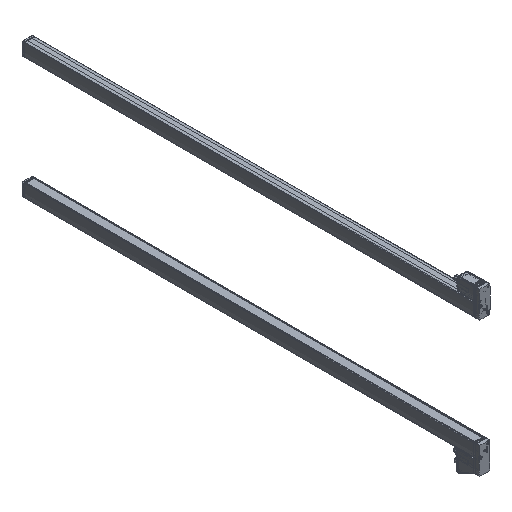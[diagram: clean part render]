
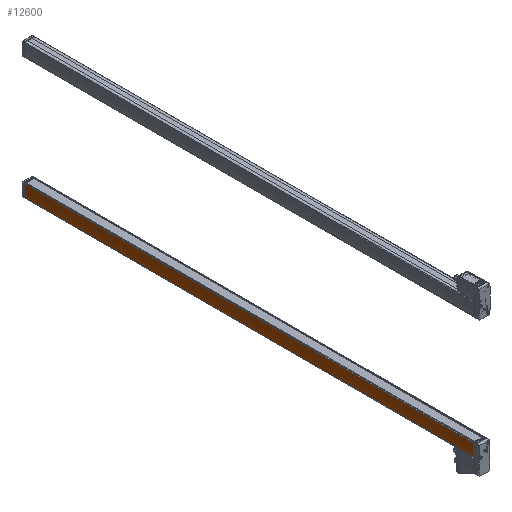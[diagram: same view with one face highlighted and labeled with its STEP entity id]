
A CAD part, isometric view. The second image highlights one B-rep face of the part: STEP entity #12600.
In plain terms, the highlighted cylindrical face has radius 250 mm (diameter 500 mm), a partial arc.
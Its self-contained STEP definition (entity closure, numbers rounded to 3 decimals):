
#11678=CYLINDRICAL_SURFACE('',#79139,250.);
#12600=ADVANCED_FACE('',(#18549),#11678,.T.);
#18549=FACE_OUTER_BOUND('',#22189,.T.);
#22189=EDGE_LOOP('',(#29285,#29286,#29287,#29288));
#26616=CIRCLE('',#79049,250.);
#26663=CIRCLE('',#79138,250.);
#29285=ORIENTED_EDGE('',*,*,#56790,.T.);
#29286=ORIENTED_EDGE('',*,*,#56914,.F.);
#29287=ORIENTED_EDGE('',*,*,#56915,.T.);
#29288=ORIENTED_EDGE('',*,*,#56912,.F.);
#49990=VERTEX_POINT('',#104094);
#49991=VERTEX_POINT('',#104096);
#50072=VERTEX_POINT('',#104340);
#50073=VERTEX_POINT('',#104344);
#56790=EDGE_CURVE('',#49991,#49990,#26616,.T.);
#56912=EDGE_CURVE('',#49991,#50072,#67318,.T.);
#56914=EDGE_CURVE('',#50073,#49990,#67319,.T.);
#56915=EDGE_CURVE('',#50073,#50072,#26663,.T.);
#67318=LINE('',#104339,#73178);
#67319=LINE('',#104343,#73179);
#73178=VECTOR('',#85629,1.);
#73179=VECTOR('',#85634,1.);
#79049=AXIS2_PLACEMENT_3D('',#104095,#85379,#85380);
#79138=AXIS2_PLACEMENT_3D('',#104345,#85635,#85636);
#79139=AXIS2_PLACEMENT_3D('',#104346,#85637,#85638);
#85379=DIRECTION('',(0.,0.,1.));
#85380=DIRECTION('',(-0.998,0.067,0.));
#85629=DIRECTION('',(0.,0.,1.));
#85634=DIRECTION('',(0.,0.,-1.));
#85635=DIRECTION('',(0.,0.,-1.));
#85636=DIRECTION('',(-0.998,0.067,0.));
#85637=DIRECTION('',(0.,0.,-1.));
#85638=DIRECTION('',(0.998,-0.067,0.));
#104094=CARTESIAN_POINT('',(13.731,16.86,-1202.));
#104095=CARTESIAN_POINT('',(-235.7,0.,-1202.));
#104096=CARTESIAN_POINT('',(13.793,-15.907,-1202.));
#104339=CARTESIAN_POINT('',(13.793,-15.907,-452.));
#104340=CARTESIAN_POINT('',(13.793,-15.907,0.));
#104343=CARTESIAN_POINT('',(13.731,16.86,0.));
#104344=CARTESIAN_POINT('',(13.731,16.86,0.));
#104345=CARTESIAN_POINT('',(-235.7,0.,0.));
#104346=CARTESIAN_POINT('',(-235.7,0.,0.));
